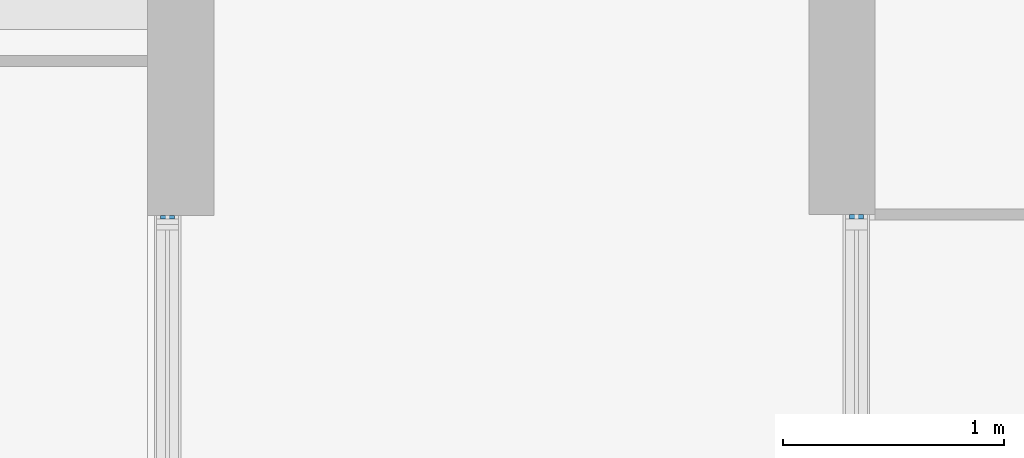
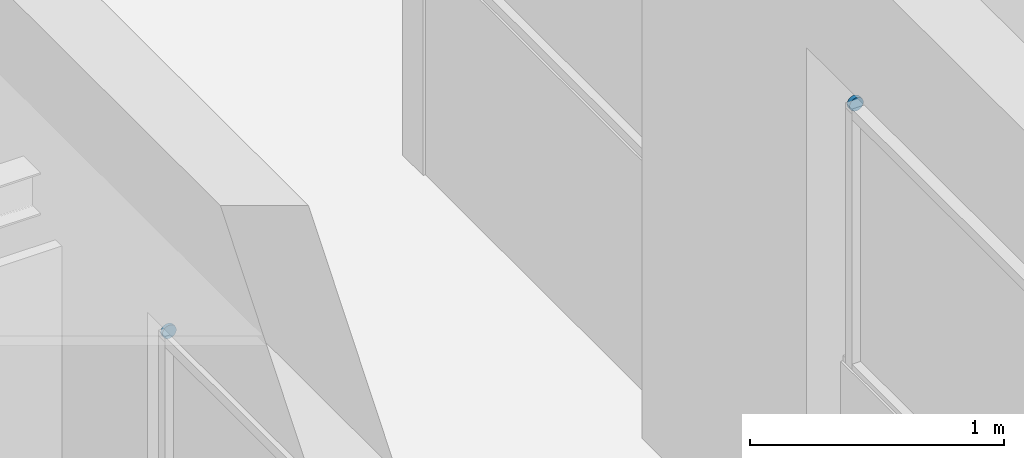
# One storey, part 28 of 117: 2 members, 2 elements without a shape of their own.
"""IFC4 building model written with IfcOpenShell, lengths in metres."""

from ifc_helpers import new_model, entity, si_unit, converted_unit, derived_unit, direction, frame, origin, place, context, subcontext, project, spatial, arc, indexed_curve, outline, extrude, source, transform, mapped, material, type_object, type_shapes, element, aggregate, save


model = new_model("IFC4")

# Units and contexts
model_context = context("Model", 3, precision=1e-05, world=origin(), true_north=direction((6.123031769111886e-17, 1.0)))
body_context = subcontext(model_context, "Body", "Model", "MODEL_VIEW")
ifc_project = project(units=[si_unit("LENGTHUNIT", "METRE"), si_unit("AREAUNIT", "SQUARE_METRE"), si_unit("VOLUMEUNIT", "CUBIC_METRE"), converted_unit("PLANEANGLEUNIT", "DEGREE", entity("IfcRatioMeasure", 0.017453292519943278), si_unit("PLANEANGLEUNIT", "RADIAN"), dimensions=[0, 0, 0, 0, 0, 0, 0]), si_unit("MASSUNIT", "GRAM", prefix="KILO"), derived_unit("MASSDENSITYUNIT", [(si_unit("MASSUNIT", "GRAM", prefix="KILO"), 1), (si_unit("LENGTHUNIT", "METRE"), -3)]), derived_unit("MOMENTOFINERTIAUNIT", [(si_unit("LENGTHUNIT", "METRE"), 4)]), si_unit("TIMEUNIT", "SECOND"), si_unit("FREQUENCYUNIT", "HERTZ"), si_unit("THERMODYNAMICTEMPERATUREUNIT", "DEGREE_CELSIUS"), derived_unit("THERMALTRANSMITTANCEUNIT", [(si_unit("MASSUNIT", "GRAM", prefix="KILO"), 1), (si_unit("THERMODYNAMICTEMPERATUREUNIT", "KELVIN"), -1), (si_unit("TIMEUNIT", "SECOND"), -3)]), derived_unit("VOLUMETRICFLOWRATEUNIT", [(si_unit("LENGTHUNIT", "METRE"), 3), (si_unit("TIMEUNIT", "SECOND"), -1)]), derived_unit("MASSFLOWRATEUNIT", [(si_unit("MASSUNIT", "GRAM", prefix="KILO"), 1), (si_unit("TIMEUNIT", "SECOND"), -1)]), derived_unit("ROTATIONALFREQUENCYUNIT", [(si_unit("TIMEUNIT", "SECOND"), -1)]), si_unit("ELECTRICCURRENTUNIT", "AMPERE"), si_unit("ELECTRICVOLTAGEUNIT", "VOLT"), si_unit("POWERUNIT", "WATT"), si_unit("FORCEUNIT", "NEWTON", prefix="KILO"), si_unit("ILLUMINANCEUNIT", "LUX"), si_unit("LUMINOUSFLUXUNIT", "LUMEN"), si_unit("LUMINOUSINTENSITYUNIT", "CANDELA"), derived_unit("USERDEFINED", [(si_unit("MASSUNIT", "GRAM", prefix="KILO"), -1), (si_unit("LENGTHUNIT", "METRE"), -2), (si_unit("TIMEUNIT", "SECOND"), 3), (si_unit("LUMINOUSFLUXUNIT", "LUMEN"), 1)]), derived_unit("SOUNDPOWERUNIT", [(si_unit("MASSUNIT", "GRAM", prefix="KILO"), 1), (si_unit("LENGTHUNIT", "METRE"), 2), (si_unit("TIMEUNIT", "SECOND"), -3)]), derived_unit("SOUNDPRESSUREUNIT", [(si_unit("MASSUNIT", "GRAM", prefix="KILO"), 1), (si_unit("LENGTHUNIT", "METRE"), -1), (si_unit("TIMEUNIT", "SECOND"), -2)]), derived_unit("LINEARVELOCITYUNIT", [(si_unit("LENGTHUNIT", "METRE"), 1), (si_unit("TIMEUNIT", "SECOND"), -1)]), si_unit("PRESSUREUNIT", "PASCAL"), derived_unit("USERDEFINED", [(si_unit("LENGTHUNIT", "METRE"), -2), (si_unit("MASSUNIT", "GRAM", prefix="KILO"), 1), (si_unit("TIMEUNIT", "SECOND"), -2)]), derived_unit("LINEARFORCEUNIT", [(si_unit("MASSUNIT", "GRAM", prefix="KILO"), 1), (si_unit("LENGTHUNIT", "METRE"), 1), (si_unit("TIMEUNIT", "SECOND"), -2), (si_unit("LENGTHUNIT", "METRE"), -1)]), derived_unit("PLANARFORCEUNIT", [(si_unit("MASSUNIT", "GRAM", prefix="KILO"), 1), (si_unit("LENGTHUNIT", "METRE"), 1), (si_unit("TIMEUNIT", "SECOND"), -2), (si_unit("LENGTHUNIT", "METRE"), -2)])], contexts=[model_context])

# Site, building, storey
site_placement = place(None, origin())
site = spatial("IfcSite", under=ifc_project, at=site_placement, Name="Superficie", CompositionType="ELEMENT")
building_placement = place(site_placement, origin())
building = spatial("IfcBuilding", under=site, at=building_placement, CompositionType="ELEMENT")
storey_placement = place(building_placement, origin())
storey = spatial("IfcBuildingStorey", under=building, at=storey_placement, Name="Nivel 0", CompositionType="ELEMENT", Elevation=0.0)

# Curtain wall, member
curtain_wall_type = type_object("IfcCurtainWallType", Name="Muro cortina:Muro cortina - simple", PredefinedType="NOTDEFINED")
curtain_wall_1_placement = place(storey_placement, origin())
curtain_wall_1 = element("IfcCurtainWall", 1, at=curtain_wall_1_placement, inside=storey, type_object=curtain_wall_type, Name="Muro cortina:Muro cortina - simple", ObjectType="Muro cortina:Muro cortina - simple", PredefinedType="NOTDEFINED")
ifc_material = material(Name="<Unnamed>")
member_type_1 = type_object("IfcMemberType", Name="Montante circular:Montante circular 1", PredefinedType="MULLION", material=ifc_material)
shared_shape_1 = source(origin(), body_context, "Body", "SweptSolid", [
    extrude(outline(indexed_curve([(0.03175, 3.119047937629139e-17), (6.539337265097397e-17, 0.031750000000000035), (-0.03175, -3.119047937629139e-17), (-6.364169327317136e-17, -0.031749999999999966)], segments=[arc(1, 2, 3), arc(3, 4, 1)], self_intersect=False)), frame((0.0, 0.0, -0.014999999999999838)), (0.0, 0.0, 1.0), 0.014999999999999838),
])
type_shapes(member_type_1, [shared_shape_1])
member_1_placement = place(curtain_wall_1_placement, frame((12.786799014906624, 0.14082928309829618, 2.3249999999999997), z_axis=(0.0, -1.0, 0.0), x_axis=(0.0, 0.0, 1.0)))
member_1 = element("IfcMember", 2, at=member_1_placement, type_object=member_type_1, material=ifc_material, Name="Montante circular:Montante circular 1", ObjectType="Montante circular:Montante circular 1", PredefinedType="MULLION", context=body_context, shape_type="MappedRepresentation", body=[
    mapped(shared_shape_1, transform((0.0, 0.0, 0.0), scale=1.0)),
])
aggregate(curtain_wall_1, [member_1])

curtain_wall_2_placement = place(storey_placement, origin())
curtain_wall_2 = element("IfcCurtainWall", 3, at=curtain_wall_2_placement, inside=storey, type_object=curtain_wall_type, Name="Muro cortina:Muro cortina - simple", ObjectType="Muro cortina:Muro cortina - simple", PredefinedType="NOTDEFINED")
member_type_2 = type_object("IfcMemberType", Name="Montante circular:Montante circular 1", PredefinedType="MULLION", material=ifc_material)
shared_shape_2 = source(origin(), body_context, "Body", "SweptSolid", [
    extrude(outline(indexed_curve([(0.03175, 3.119047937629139e-17), (6.539337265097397e-17, 0.031750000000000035), (-0.03175, -3.119047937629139e-17), (-6.364169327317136e-17, -0.031749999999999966)], segments=[arc(1, 2, 3), arc(3, 4, 1)], self_intersect=False)), frame((0.0, 0.0, -0.02000000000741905)), (0.0, 0.0, 1.0), 0.02000000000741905),
])
type_shapes(member_type_2, [shared_shape_2])
member_2_placement = place(curtain_wall_2_placement, frame((15.906799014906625, 0.14082928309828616, 2.3249999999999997), z_axis=(0.0, -1.0, 0.0), x_axis=(0.0, 0.0, 1.0)))
member_2 = element("IfcMember", 4, at=member_2_placement, type_object=member_type_2, material=ifc_material, Name="Montante circular:Montante circular 1", ObjectType="Montante circular:Montante circular 1", PredefinedType="MULLION", context=body_context, shape_type="MappedRepresentation", body=[
    mapped(shared_shape_2, transform((0.0, 0.0, 0.0), scale=1.0)),
])
aggregate(curtain_wall_2, [member_2])

save(model, "model.ifc")
